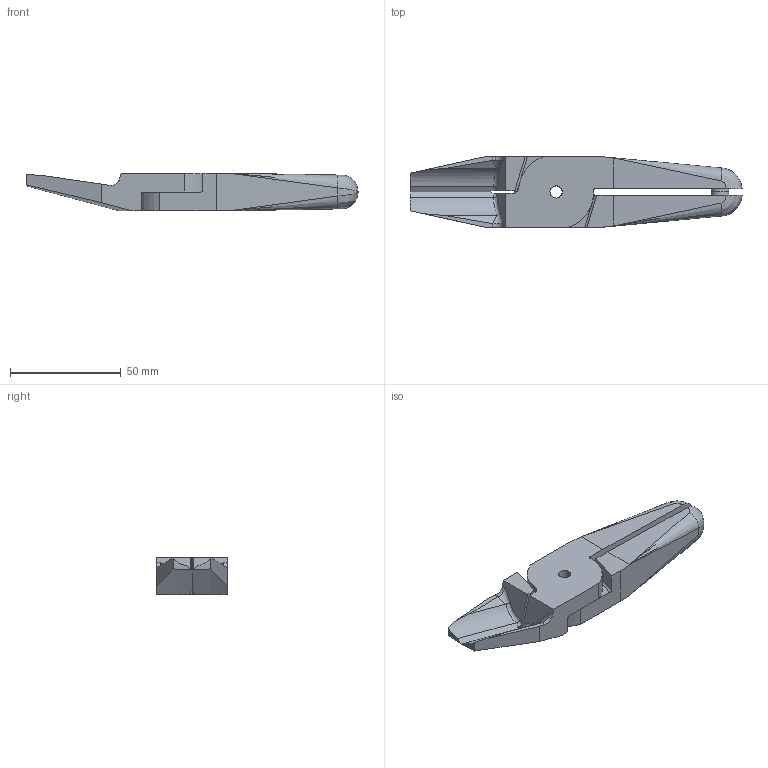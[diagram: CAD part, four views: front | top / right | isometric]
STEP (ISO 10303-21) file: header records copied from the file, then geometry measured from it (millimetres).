
FILE_DESCRIPTION (( 'STEP AP214' ), '1' );
FILE_NAME ('N30AP.STEP', '2019-11-29T03:51:18', ( '微软用户' ), ( '微软中国' ), 'SwSTEP 2.0', 'SolidWorks 2016', '' );
FILE_SCHEMA (( 'AUTOMOTIVE_DESIGN' ));
Length unit declared in the file: millimetre
Products named in the file (1): N30AP
Bounding box: 150 x 32 x 17 mm (x, y, z)
Surface area: 17668.6 mm2 (no closed solid volume)
Topology: 0 solids, 3 shells, 81 faces, 236 edges, 152 vertices
Faces by surface type: plane 42, cylinder 22, bspline 17
Entity records: 4839 total; most frequent: CARTESIAN_POINT 2482, ORIENTED_EDGE 452, DIRECTION 324, EDGE_CURVE 234, VERTEX_POINT 153, LINE 132, VECTOR 132, AXIS2_PLACEMENT_3D 96
